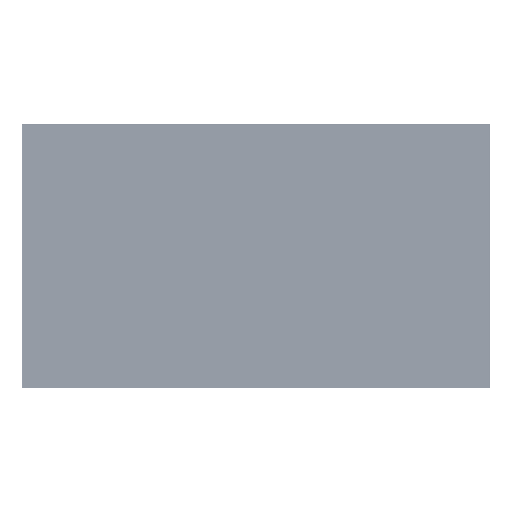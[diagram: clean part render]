
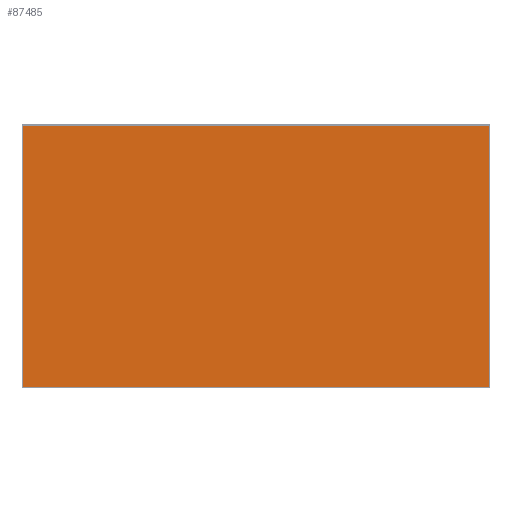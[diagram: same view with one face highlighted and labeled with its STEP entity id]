
A CAD part, top view. The second image highlights one B-rep face of the part: STEP entity #87485.
In plain terms, the highlighted planar face has unit normal (0, 0, 1).
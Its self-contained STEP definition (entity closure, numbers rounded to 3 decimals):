
#2918=LINE('',#128736,#11057);
#2919=LINE('',#128738,#11058);
#2920=LINE('',#128740,#11059);
#2921=LINE('',#128741,#11060);
#11057=VECTOR('',#102594,680.4);
#11058=VECTOR('',#102595,1209.6);
#11059=VECTOR('',#102596,680.4);
#11060=VECTOR('',#102597,1209.6);
#19188=PLANE('',#92526);
#23976=FACE_OUTER_BOUND('',#28887,.T.);
#28887=EDGE_LOOP('',(#61402,#61403,#61404,#61405));
#39830=VERTEX_POINT('',#128734);
#39831=VERTEX_POINT('',#128735);
#39832=VERTEX_POINT('',#128737);
#39833=VERTEX_POINT('',#128739);
#48381=EDGE_CURVE('',#39830,#39831,#2918,.T.);
#48382=EDGE_CURVE('',#39831,#39832,#2919,.T.);
#48383=EDGE_CURVE('',#39832,#39833,#2920,.T.);
#48384=EDGE_CURVE('',#39833,#39830,#2921,.T.);
#61402=ORIENTED_EDGE('',*,*,#48381,.T.);
#61403=ORIENTED_EDGE('',*,*,#48382,.T.);
#61404=ORIENTED_EDGE('',*,*,#48383,.T.);
#61405=ORIENTED_EDGE('',*,*,#48384,.T.);
#87485=ADVANCED_FACE('',(#23976),#19188,.T.);
#92526=AXIS2_PLACEMENT_3D('',#128733,#102592,#102593);
#102592=DIRECTION('center_axis',(0.,0.,1.));
#102593=DIRECTION('ref_axis',(1.,0.,0.));
#102594=DIRECTION('',(0.,-1.,0.));
#102595=DIRECTION('',(1.,0.,0.));
#102596=DIRECTION('',(0.,1.,0.));
#102597=DIRECTION('',(-1.,0.,0.));
#128733=CARTESIAN_POINT('Origin',(0.,0.,
0.));
#128734=CARTESIAN_POINT('',(-604.8,340.2,0.));
#128735=CARTESIAN_POINT('',(-604.8,-340.2,0.));
#128736=CARTESIAN_POINT('',(-604.8,170.1,0.));
#128737=CARTESIAN_POINT('',(604.8,-340.2,0.));
#128738=CARTESIAN_POINT('',(-302.4,-340.2,0.));
#128739=CARTESIAN_POINT('',(604.8,340.2,0.));
#128740=CARTESIAN_POINT('',(604.8,-170.1,0.));
#128741=CARTESIAN_POINT('',(302.4,340.2,0.));
